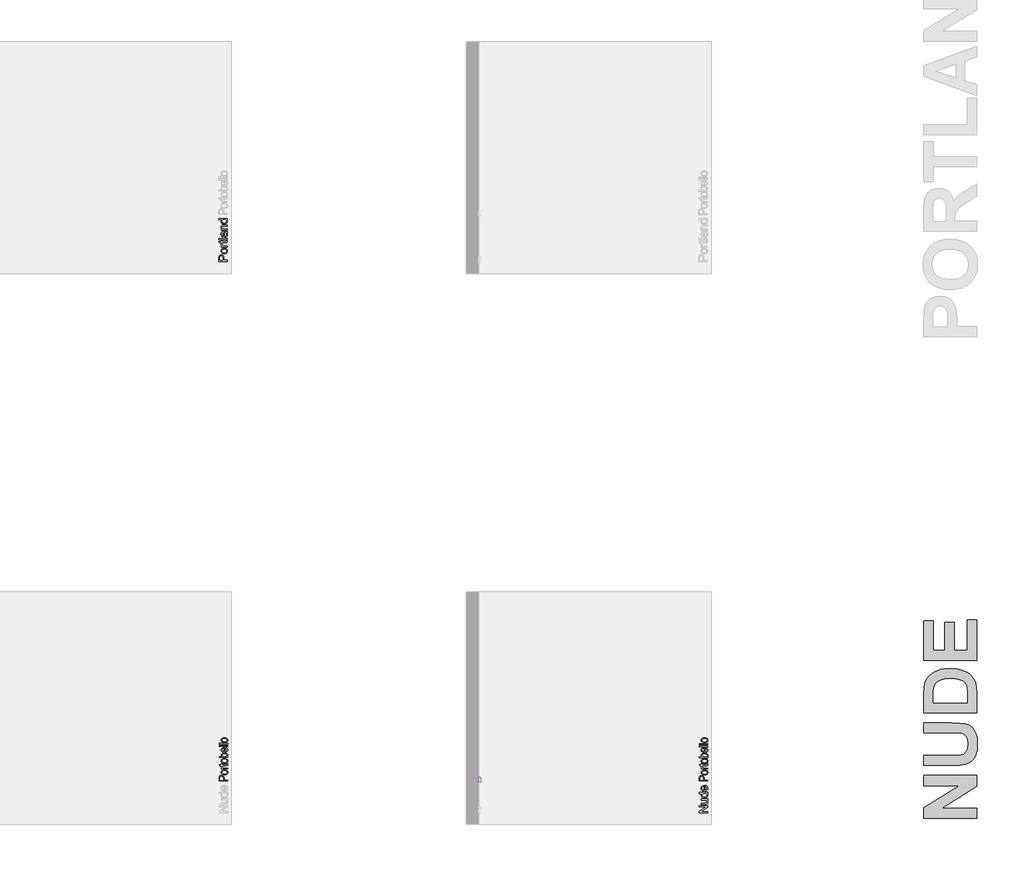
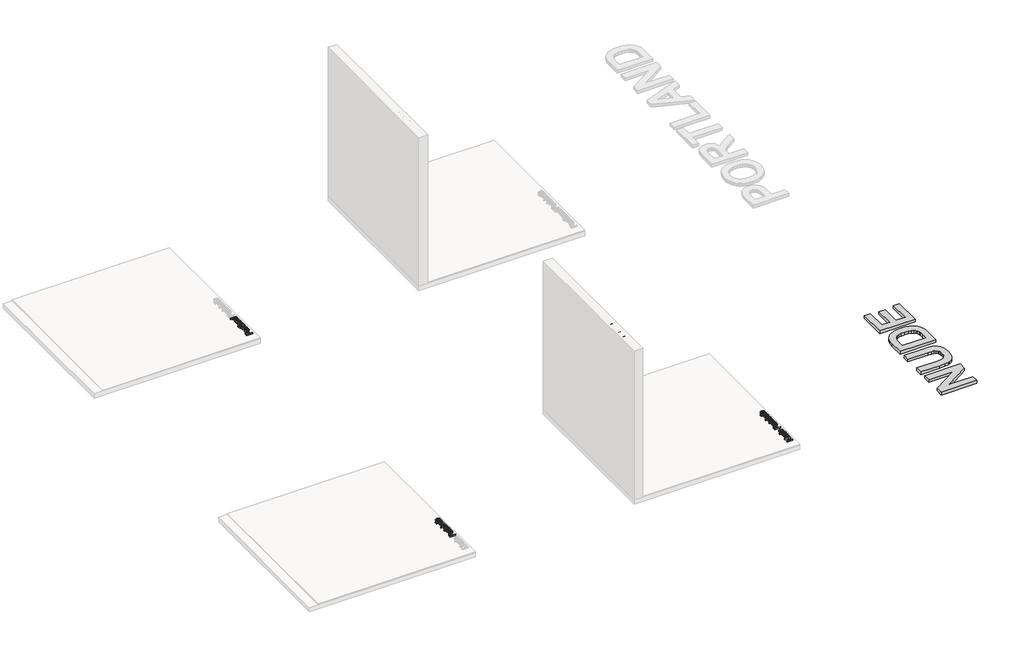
# One storey, part 11 of 14: 6 proxies.
"""IFC4 building model written with IfcOpenShell, lengths in millimetres."""

from ifc_helpers import new_model, si_unit, frame, origin, origin_with_axes, place, context, project, spatial, polyline, outline, extrude, element, save

model = new_model("IFC4")

# Units and contexts
model_context = context("Model", 3, world=origin())
ifc_project = project(units=[si_unit("LENGTHUNIT", "METRE", prefix="MILLI")], contexts=[model_context])

# Site, building, storey
site = spatial("IfcSite", under=ifc_project)
building = spatial("IfcBuilding", under=site)
storey = spatial("IfcBuildingStorey", under=building, Name="PORTOBELLO - SHOWROOM", Elevation=0.0)

# Proxies
placement = place(None, origin())
element("IfcBuildingElementProxy", 1, Name="10mm Arial", ObjectType="10mm Arial", at=placement, inside=storey, context=model_context, shape_type="SweptSolid", body=[
    extrude(outline(polyline([(197929.3756108, 3711.0182352), (197828.9193006, 3711.0182352), (197828.9193006, 3724.4581908), (197908.5044389, 3776.9426887), (197828.9193006, 3776.9426887), (197828.9193006, 3789.4997275), (197929.3756108, 3789.4997275), (197929.3756108, 3776.059772), (197849.765947, 3723.575274), (197929.3756108, 3723.575274), (197929.3756108, 3711.0182352)])), frame((0.0, 0.0, 17.0), z_axis=(0.0, 0.0, 1.0), x_axis=(1.0, 0.0, 0.0)), (0.0, 0.0, 1.0), 20.0),
    extrude(outline(polyline([(197929.3756108, 3856.9938109), (197916.6959447, 3856.9938109), (197927.3829166, 3847.1590989), (197930.9452406, 3834.33228), (197928.443643, 3822.5232679), (197922.1651236, 3814.3808131), (197912.9190228, 3810.6406795), (197901.2449009, 3809.9049155), (197855.603008, 3809.9049155), (197855.603008, 3822.4619543), (197895.3342635, 3822.4619543), (197908.1365569, 3823.2222437), (197915.6536123, 3828.1886507), (197918.3882018, 3837.5451161), (197915.5922987, 3848.0297529), (197907.9771414, 3854.9581972), (197893.9853628, 3856.9938109), (197855.603008, 3856.9938109), (197855.603008, 3869.5508497), (197929.3756108, 3869.5508497), (197929.3756108, 3856.9938109)])), frame((0.0, 0.0, 17.0), z_axis=(0.0, 0.0, 1.0), x_axis=(1.0, 0.0, 0.0)), (0.0, 0.0, 1.0), 20.0),
    extrude(outline(polyline([(197929.3756108, 3932.3360435), (197917.5298105, 3932.3360435), (197927.5913831, 3924.0280418), (197930.9452406, 3912.5439922), (197926.0891983, 3896.9948465), (197912.5388781, 3886.0074376), (197892.5628858, 3882.1078884), (197872.5746307, 3885.7008693), (197858.8158441, 3896.467549), (197854.0333781, 3912.4949412), (197857.4546807, 3924.0709613), (197866.3451622, 3932.3360435), (197828.9193006, 3932.3360435), (197828.9193006, 3944.8930823), (197929.3756108, 3944.8930823), (197929.3756108, 3932.3360435)]), holes=[polyline([(197892.5138348, 3894.6649272), (197903.8721914, 3896.0812729), (197911.9502669, 3900.3303099), (197916.7787181, 3906.5045961), (197918.3882018, 3913.6966891), (197916.8522945, 3920.8857164), (197912.2445725, 3926.9036527), (197904.4791967, 3930.9779458), (197893.470328, 3932.3360435), (197881.4344554, 3930.9534203), (197873.0896655, 3926.8055508), (197868.2152291, 3920.6343304), (197866.5904169, 3913.1816543), (197868.1508497, 3905.9159849), (197872.8321481, 3899.9624279), (197880.8734354, 3895.9893024), (197892.5138348, 3894.6649272)])]), frame((0.0, 0.0, 17.0), z_axis=(0.0, 0.0, 1.0), x_axis=(1.0, 0.0, 0.0)), (0.0, 0.0, 1.0), 20.0),
    extrude(outline(polyline([(197907.4007929, 4015.3792726), (197908.9704228, 4027.6910567), (197918.2471804, 4023.2550129), (197925.181756, 4016.1763502), (197929.5043695, 4006.614484), (197930.9452406, 3994.7288299), (197928.4589714, 3979.995156), (197921.000164, 3968.6582592), (197909.0531962, 3961.429378), (197893.102446, 3959.0197509), (197876.6152013, 3961.4539034), (197864.2850231, 3968.756361), (197856.5962894, 3979.9399737), (197854.0333781, 3994.0175914), (197856.590158, 4007.6568163), (197864.2604976, 4018.5553204), (197876.5661503, 4025.7014282), (197893.0288696, 4028.0834641), (197896.413384, 4028.0098877), (197896.413384, 3971.5767897), (197905.812769, 3973.7503591), (197912.7228191, 3978.7995395), (197916.9718561, 3986.0866687), (197918.3882018, 3994.9740846), (197915.7639769, 4007.2858687), (197907.4007929, 4015.3792726)]), holes=[polyline([(197883.8563452, 3971.5767897), (197883.8563452, 4015.5264253), (197872.4765288, 4010.4987047), (197868.0619449, 4003.177853), (197866.5904169, 3993.9685404), (197871.2870437, 3978.5052339), (197876.7776825, 3973.6399945), (197883.8563452, 3971.5767897)])]), frame((0.0, 0.0, 17.0), z_axis=(0.0, 0.0, 1.0), x_axis=(1.0, 0.0, 0.0)), (0.0, 0.0, 1.0), 20.0),
])
element("IfcBuildingElementProxy", 2, Name="10mm Arial", ObjectType="10mm Arial", at=placement, inside=storey, context=model_context, shape_type="SweptSolid", body=[
    extrude(outline(polyline([(192349.2928516, 10118.1415779), (192248.8365415, 10118.1415779), (192248.8365415, 10155.3712358), (192249.7930347, 10170.3808212), (192254.4896615, 10182.5822407), (192264.2017461, 10190.4917036), (192277.8992191, 10193.4838105), (192289.738888, 10191.4635252), (192299.6042568, 10185.4026693), (192306.2629209, 10174.0688382), (192308.4824756, 10156.2296271), (192308.4824756, 10130.6986166), (192349.2928516, 10130.6986166), (192349.2928516, 10118.1415779)]), holes=[polyline([(192295.9254369, 10130.6986166), (192295.9254369, 10156.9653911), (192291.3146492, 10175.4575927), (192285.7657624, 10179.559477), (192278.3406775, 10180.9267717), (192267.9418798, 10177.7016729), (192262.2519716, 10169.2281243), (192261.3935802, 10156.6710855), (192261.3935802, 10130.6986166), (192295.9254369, 10130.6986166)])]), frame((0.0, 0.0, 17.0), z_axis=(0.0, 0.0, 1.0), x_axis=(1.0, 0.0, 0.0)), (0.0, 0.0, 1.0), 20.0),
    extrude(outline(polyline([(192312.4065502, 10206.0408493), (192294.6194558, 10208.7570447), (192282.1175993, 10216.9056308), (192275.9923641, 10226.9733348), (192273.950619, 10239.0276015), (192276.4368882, 10252.2192367), (192283.8956956, 10262.7559902), (192295.7384302, 10269.6629746), (192311.3764807, 10271.9653028), (192333.7191805, 10267.8940754), (192346.3620584, 10256.0360124), (192350.8624815, 10239.0276015), (192348.3854094, 10225.6765507), (192340.9541931, 10215.15206), (192328.8631382, 10208.3186519), (192312.4065502, 10206.0408493)]), holes=[polyline([(192312.3820248, 10218.597888), (192323.7465127, 10220.0510219), (192331.8429823, 10224.4104235), (192336.6898276, 10230.9709858), (192338.3054427, 10239.0276015), (192336.6806306, 10247.047429), (192331.8061941, 10253.5957285), (192323.6024256, 10257.9551301), (192311.9896173, 10259.408264), (192300.9562231, 10257.9459331), (192292.9701182, 10253.5589403), (192288.1232729, 10247.0014437), (192286.5076578, 10239.0276015), (192288.1171415, 10230.9709858), (192292.9455927, 10224.4104235), (192301.0236682, 10220.0510219), (192312.3820248, 10218.597888)])]), frame((0.0, 0.0, 17.0), z_axis=(0.0, 0.0, 1.0), x_axis=(1.0, 0.0, 0.0)), (0.0, 0.0, 1.0), 20.0),
    extrude(outline(polyline([(192349.2928516, 10286.0919714), (192275.5202489, 10286.0919714), (192275.5202489, 10297.0793803), (192286.4340814, 10297.0793803), (192276.3786402, 10304.8784786), (192273.950619, 10312.7266279), (192277.8256427, 10325.3327176), (192289.0828317, 10321.1388628), (192286.5076578, 10312.3096949), (192288.9847299, 10305.2095724), (192295.8518605, 10300.6846239), (192310.5180893, 10298.6490102), (192349.2928516, 10298.6490102), (192349.2928516, 10286.0919714)])), frame((0.0, 0.0, 17.0), z_axis=(0.0, 0.0, 1.0), x_axis=(1.0, 0.0, 0.0)), (0.0, 0.0, 1.0), 20.0),
    extrude(outline(polyline([(192338.8204775, 10359.8645742), (192349.6607336, 10361.434204), (192350.8624815, 10352.0409504), (192348.7778168, 10341.5195253), (192343.3086378, 10336.2710755), (192329.0593419, 10334.7504966), (192288.0772876, 10334.7504966), (192288.0772876, 10325.3327176), (192277.8256427, 10325.3327176), (192275.5202489, 10325.3327176), (192275.5202489, 10334.7504966), (192257.592133, 10334.7504966), (192250.2099676, 10347.3075354), (192275.5202489, 10347.3075354), (192275.5202489, 10359.8645742), (192288.0772876, 10359.8645742), (192288.0772876, 10347.3075354), (192328.6914599, 10347.3075354), (192335.166183, 10347.969723), (192337.4593141, 10350.1157013), (192338.3054427, 10354.3953952), (192338.8204775, 10359.8645742)])), frame((0.0, 0.0, 17.0), z_axis=(0.0, 0.0, 1.0), x_axis=(1.0, 0.0, 0.0)), (0.0, 0.0, 1.0), 20.0),
    extrude(outline(polyline([(192349.2928516, 10372.4216129), (192248.8365415, 10372.4216129), (192248.8365415, 10384.9786517), (192349.2928516, 10384.9786517), (192349.2928516, 10372.4216129)])), frame((0.0, 0.0, 17.0), z_axis=(0.0, 0.0, 1.0), x_axis=(1.0, 0.0, 0.0)), (0.0, 0.0, 1.0), 20.0),
    extrude(outline(polyline([(192339.8750725, 10450.9031052), (192348.3854094, 10438.7262112), (192350.8624815, 10425.2739929), (192349.3725594, 10414.780159), (192344.9027931, 10407.0393087), (192338.1153703, 10402.2660398), (192329.6724785, 10400.6749502), (192319.7396647, 10403.0784459), (192312.5291776, 10409.3937535), (192308.4088992, 10418.1861331), (192306.5204383, 10429.0509147), (192302.2039562, 10450.8295288), (192299.4080531, 10450.9031052), (192290.1374268, 10447.4450145), (192286.5076578, 10433.5636005), (192288.9234162, 10420.859409), (192297.4950667, 10414.8016188), (192295.9254369, 10402.24458), (192283.6627037, 10407.6769708), (192276.476742, 10418.6153288), (192273.950619, 10435.1822813), (192276.1824364, 10450.4003332), (192281.7865055, 10458.9965091), (192290.3091051, 10462.8470074), (192301.296514, 10463.460144), (192316.919236, 10463.460144), (192338.7346384, 10464.0978061), (192349.2928516, 10466.5994037), (192349.2928516, 10454.0423649), (192339.8750725, 10450.9031052)]), holes=[polyline([(192314.760995, 10450.9031052), (192318.6114932, 10430.64507), (192320.6471069, 10419.8416021), (192323.9580449, 10414.9487716), (192328.7895618, 10413.2319889), (192335.5831159, 10416.9721226), (192338.3054427, 10427.9472687), (192335.3010731, 10440.6514603), (192328.0292723, 10448.8429661), (192318.3171876, 10450.8295288), (192314.760995, 10450.9031052)])]), frame((0.0, 0.0, 17.0), z_axis=(0.0, 0.0, 1.0), x_axis=(1.0, 0.0, 0.0)), (0.0, 0.0, 1.0), 20.0),
    extrude(outline(polyline([(192349.2928516, 10480.7260723), (192275.5202489, 10480.7260723), (192275.5202489, 10493.2831111), (192285.8209447, 10493.2831111), (192276.9182004, 10502.8848312), (192273.950619, 10515.9936929), (192276.341852, 10527.8517559), (192282.6203714, 10535.9451598), (192291.8542094, 10539.7098189), (192303.9943153, 10540.3720065), (192349.2928516, 10540.3720065), (192349.2928516, 10527.8149677), (192305.6865725, 10527.8149677), (192294.5765362, 10526.3679652), (192288.702687, 10521.2544055), (192286.5076578, 10512.633704), (192291.4372765, 10499.0098075), (192298.5803186, 10494.7147852), (192310.1502073, 10493.2831111), (192349.2928516, 10493.2831111), (192349.2928516, 10480.7260723)])), frame((0.0, 0.0, 17.0), z_axis=(0.0, 0.0, 1.0), x_axis=(1.0, 0.0, 0.0)), (0.0, 0.0, 1.0), 20.0),
    extrude(outline(polyline([(192349.2928516, 10603.1572003), (192337.4470514, 10603.1572003), (192347.5086239, 10594.8491986), (192350.8624815, 10583.365149), (192346.0064391, 10567.8160033), (192332.456119, 10556.8285944), (192312.4801266, 10552.9290452), (192292.4918716, 10556.5220261), (192278.7330849, 10567.2887058), (192273.950619, 10583.316098), (192277.3719216, 10594.8921182), (192286.2624031, 10603.1572003), (192248.8365415, 10603.1572003), (192248.8365415, 10615.7142391), (192349.2928516, 10615.7142391), (192349.2928516, 10603.1572003)]), holes=[polyline([(192312.4310757, 10565.486084), (192323.7894323, 10566.9024297), (192331.8675078, 10571.1514667), (192336.695959, 10577.3257529), (192338.3054427, 10584.5178459), (192336.7695354, 10591.7068732), (192332.1618134, 10597.7248095), (192324.3964376, 10601.7991026), (192313.3875689, 10603.1572003), (192301.3516963, 10601.7745772), (192293.0069064, 10597.6267077), (192288.1324699, 10591.4554872), (192286.5076578, 10584.0028111), (192288.0680906, 10576.7371417), (192292.749389, 10570.7835847), (192300.7906762, 10566.8104592), (192312.4310757, 10565.486084)])]), frame((0.0, 0.0, 17.0), z_axis=(0.0, 0.0, 1.0), x_axis=(1.0, 0.0, 0.0)), (0.0, 0.0, 1.0), 20.0),
])
element("IfcBuildingElementProxy", 3, Name="10mm Arial Narrow", ObjectType="10mm Arial Narrow", at=placement, inside=storey, context=model_context, shape_type="SweptSolid", body=[
    extrude(outline(polyline([(197929.3756108, 4078.3321348), (197828.657007, 4078.3321348), (197828.657007, 4109.6290195), (197830.5353277, 4125.924721), (197840.0157709, 4137.3977071), (197857.0348797, 4141.6873856), (197869.1107053, 4139.9010772), (197878.737099, 4134.542152), (197885.0383574, 4124.7983632), (197887.1387769, 4109.8574639), (197887.1387769, 4088.0790965), (197929.3756108, 4088.0790965), (197929.3756108, 4078.3321348)]), holes=[polyline([(197875.7673217, 4088.0790965), (197875.7673217, 4111.0504514), (197871.2365075, 4126.9146468), (197857.5679167, 4131.9404239), (197847.4021403, 4129.4656094), (197841.6021904, 4123.4879806), (197840.0284623, 4110.822007), (197840.0284623, 4088.0790965), (197875.7673217, 4088.0790965)])]), frame((0.0, 0.0, 17.0), z_axis=(0.0, 0.0, 1.0), x_axis=(1.0, 0.0, 0.0)), (0.0, 0.0, 1.0), 20.0),
    extrude(outline(polyline([(197892.8245046, 4149.8098536), (197876.233729, 4151.7643225), (197864.2816442, 4157.6277291), (197857.0570896, 4166.4862958), (197854.6489047, 4177.426245), (197857.0570896, 4188.2392806), (197864.2816442, 4197.12323), (197876.0433587, 4203.0627847), (197892.0630232, 4205.0426363), (197909.2249098, 4203.097686), (197921.3673649, 4197.2628349), (197928.5919195, 4188.4137867), (197931.0001044, 4177.426245), (197928.5855738, 4166.5656168), (197921.3419822, 4157.6911859), (197909.3835517, 4151.7801867), (197892.8245046, 4149.8098536)]), holes=[polyline([(197892.7991218, 4159.5568153), (197905.3508732, 4160.8608521), (197914.2221313, 4164.7729627), (197919.4953899, 4170.6141595), (197921.2531427, 4177.7054548), (197919.4795257, 4184.425528), (197914.1586745, 4190.1176013), (197905.2715523, 4194.0011563), (197892.7991218, 4195.2956747), (197880.2854445, 4193.9916378), (197871.4268778, 4190.0795272), (197866.1536192, 4184.2383305), (197864.3958664, 4177.1470351), (197866.1631378, 4170.3793694), (197871.4649519, 4164.6968146), (197880.3330371, 4160.8418151), (197892.7991218, 4159.5568153)])]), frame((0.0, 0.0, 17.0), z_axis=(0.0, 0.0, 1.0), x_axis=(1.0, 0.0, 0.0)), (0.0, 0.0, 1.0), 20.0),
    extrude(outline(polyline([(197921.2531427, 4276.5203551), (197931.0001044, 4278.1448487), (197931.0001044, 4270.7838621), (197928.8806479, 4262.5090977), (197923.080698, 4258.1940366), (197908.4348728, 4257.0264318), (197866.02036, 4257.0264318), (197866.02036, 4248.9039638), (197862.7713728, 4248.9039638), (197867.6448536, 4247.2794702), (197866.02036, 4239.7154218), (197868.3428782, 4233.6362621), (197874.8281613, 4229.7653984), (197890.2354679, 4227.7855469), (197929.3756108, 4227.7855469), (197929.3756108, 4218.0385852), (197856.2733984, 4218.0385852), (197856.2733984, 4227.7855469), (197865.9695946, 4227.7855469), (197856.8825835, 4234.0296942), (197854.6489047, 4240.4261378), (197856.2733984, 4248.9039638), (197856.2733984, 4257.0264318), (197840.0284623, 4257.0264318), (197831.9059942, 4266.7733935), (197856.2733984, 4266.7733935), (197856.2733984, 4276.5203551), (197866.02036, 4276.5203551), (197866.02036, 4266.7733935), (197910.6685515, 4266.7733935), (197918.664106, 4267.6364057), (197921.2531427, 4272.2560594), (197921.2531427, 4276.5203551)])), frame((0.0, 0.0, 17.0), z_axis=(0.0, 0.0, 1.0), x_axis=(1.0, 0.0, 0.0)), (0.0, 0.0, 1.0), 20.0),
    extrude(outline(polyline([(197892.8245046, 4283.0183296), (197876.233729, 4284.9727984), (197864.2816442, 4290.8362051), (197857.0570896, 4299.6947718), (197854.6489047, 4310.6347209), (197857.0570896, 4321.4477565), (197864.2816442, 4330.3317059), (197876.0433587, 4336.2712607), (197892.0630232, 4338.2511123), (197909.2249098, 4336.3061619), (197921.3673649, 4330.4713108), (197928.5919195, 4321.6222626), (197931.0001044, 4310.6347209), (197928.5855738, 4299.7740927), (197921.3419822, 4290.8996618), (197909.3835517, 4284.9886626), (197892.8245046, 4283.0183296)]), holes=[polyline([(197892.7991218, 4292.7652912), (197905.3508732, 4294.0693281), (197914.2221313, 4297.9814387), (197919.4953899, 4303.8226354), (197921.2531427, 4310.9139307), (197919.4795257, 4317.6340039), (197914.1586745, 4323.3260772), (197905.2715523, 4327.2096323), (197892.7991218, 4328.5041506), (197880.2854445, 4327.2001137), (197871.4268778, 4323.2880032), (197866.1536192, 4317.4468064), (197864.3958664, 4310.3555111), (197866.1631378, 4303.5878453), (197871.4649519, 4297.9052905), (197880.3330371, 4294.050291), (197892.7991218, 4292.7652912)])]), frame((0.0, 0.0, 17.0), z_axis=(0.0, 0.0, 1.0), x_axis=(1.0, 0.0, 0.0)), (0.0, 0.0, 1.0), 20.0),
    extrude(outline(polyline([(197929.3756108, 4360.9940228), (197929.3756108, 4351.2470611), (197828.657007, 4351.2470611), (197828.657007, 4360.9940228), (197864.0658911, 4360.9940228), (197856.9841143, 4368.3930835), (197854.6489047, 4377.5943169), (197858.8497437, 4390.4760435), (197871.5791741, 4399.753425), (197892.2660849, 4403.2308566), (197908.7204283, 4401.2985976), (197920.9231674, 4395.5018206), (197928.4808701, 4387.1286983), (197931.0001044, 4377.4674033), (197928.385685, 4368.126565), (197920.6185749, 4360.9940228), (197929.3756108, 4360.9940228)]), holes=[polyline([(197892.2660849, 4360.9940228), (197909.5136381, 4363.0754052), (197918.2452913, 4368.9641946), (197921.2531427, 4377.4166379), (197919.4636615, 4383.3593655), (197914.0952177, 4388.5977228), (197892.6722083, 4393.483895), (197871.2365075, 4388.7754018), (197866.1060267, 4383.5306988), (197864.3958664, 4377.2135762), (197866.1853476, 4371.2359473), (197871.5537914, 4365.9436518), (197892.2660849, 4360.9940228)])]), frame((0.0, 0.0, 17.0), z_axis=(0.0, 0.0, 1.0), x_axis=(1.0, 0.0, 0.0)), (0.0, 0.0, 1.0), 20.0),
    extrude(outline(polyline([(197906.6327002, 4455.2146521), (197908.2571938, 4464.9616138), (197918.1437604, 4461.2620834), (197925.2636113, 4455.4430965), (197929.5659811, 4447.7394432), (197931.0001044, 4438.3859136), (197928.5855738, 4426.7923596), (197921.3419822, 4417.6482374), (197909.535848, 4411.7086826), (197893.4336897, 4409.7288311), (197876.766766, 4411.7182012), (197864.5862367, 4417.6863115), (197857.1332377, 4426.7003473), (197854.6489047, 4437.8274939), (197857.0475711, 4448.5104431), (197864.2435701, 4457.2579605), (197875.9830747, 4463.0928115), (197892.0122577, 4465.0377619), (197895.261245, 4464.9616138), (197895.261245, 4419.4757927), (197914.7044028, 4425.4788042), (197919.6159577, 4431.4088405), (197921.2531427, 4438.5128272), (197917.5980321, 4448.691295), (197906.6327002, 4455.2146521)]), holes=[polyline([(197885.5142833, 4420.1357432), (197885.5142833, 4455.2146521), (197871.2491988, 4450.9503564), (197866.1091995, 4445.1250238), (197864.3958664, 4437.9036421), (197870.1069767, 4425.6945573), (197885.5142833, 4420.1357432)])]), frame((0.0, 0.0, 17.0), z_axis=(0.0, 0.0, 1.0), x_axis=(1.0, 0.0, 0.0)), (0.0, 0.0, 1.0), 20.0),
    extrude(outline(polyline([(197929.3756108, 4477.9575626), (197828.657007, 4477.9575626), (197828.657007, 4487.7045243), (197929.3756108, 4487.7045243), (197929.3756108, 4477.9575626)])), frame((0.0, 0.0, 17.0), z_axis=(0.0, 0.0, 1.0), x_axis=(1.0, 0.0, 0.0)), (0.0, 0.0, 1.0), 20.0),
    extrude(outline(polyline([(197929.3756108, 4503.9494604), (197828.657007, 4503.9494604), (197828.657007, 4513.696422), (197929.3756108, 4513.696422), (197929.3756108, 4503.9494604)])), frame((0.0, 0.0, 17.0), z_axis=(0.0, 0.0, 1.0), x_axis=(1.0, 0.0, 0.0)), (0.0, 0.0, 1.0), 20.0),
    extrude(outline(polyline([(197892.8245046, 4525.0678773), (197876.233729, 4527.0223462), (197864.2816442, 4532.8857528), (197857.0570896, 4541.7443195), (197854.6489047, 4552.6842686), (197857.0570896, 4563.4973042), (197864.2816442, 4572.3812536), (197876.0433587, 4578.3208084), (197892.0630232, 4580.30066), (197909.2249098, 4578.3557096), (197921.3673649, 4572.5208586), (197928.5919195, 4563.6718104), (197931.0001044, 4552.6842686), (197928.5855738, 4541.8236405), (197921.3419822, 4532.9492096), (197909.3835517, 4527.0382104), (197892.8245046, 4525.0678773)]), holes=[polyline([(197892.7991218, 4534.8148389), (197905.3508732, 4536.1188758), (197914.2221313, 4540.0309864), (197919.4953899, 4545.8721831), (197921.2531427, 4552.9634785), (197919.4795257, 4559.6835516), (197914.1586745, 4565.375625), (197905.2715523, 4569.25918), (197892.7991218, 4570.5536983), (197880.2854445, 4569.2496615), (197871.4268778, 4565.3375509), (197866.1536192, 4559.4963541), (197864.3958664, 4552.4050588), (197866.1631378, 4545.637393), (197871.4649519, 4539.9548383), (197880.3330371, 4536.0998388), (197892.7991218, 4534.8148389)])]), frame((0.0, 0.0, 17.0), z_axis=(0.0, 0.0, 1.0), x_axis=(1.0, 0.0, 0.0)), (0.0, 0.0, 1.0), 20.0),
])
element("IfcBuildingElementProxy", 4, Name="10mm Arial Narrow", ObjectType="10mm Arial Narrow", at=placement, inside=storey, context=model_context, shape_type="SweptSolid", body=[
    extrude(outline(polyline([(192353.0453749, 4079.5966426), (192252.3267712, 4079.5966426), (192252.3267712, 4110.8935273), (192254.2050919, 4127.1892288), (192263.6855351, 4138.6622149), (192280.7046439, 4142.9518934), (192292.7804694, 4141.165585), (192302.4068632, 4135.8066598), (192308.7081216, 4126.062871), (192310.8085411, 4111.1219717), (192310.8085411, 4089.3436043), (192353.0453749, 4089.3436043), (192353.0453749, 4079.5966426)]), holes=[polyline([(192299.4370858, 4089.3436043), (192299.4370858, 4112.3149592), (192294.9062716, 4128.1791546), (192281.2376809, 4133.2049317), (192271.0719044, 4130.7301172), (192265.2719546, 4124.7524884), (192263.6982264, 4112.0865148), (192263.6982264, 4089.3436043), (192299.4370858, 4089.3436043)])]), frame((0.0, 0.0, 17.0), z_axis=(0.0, 0.0, 1.0), x_axis=(1.0, 0.0, 0.0)), (0.0, 0.0, 1.0), 20.0),
    extrude(outline(polyline([(192316.4942687, 4151.0743614), (192299.9034932, 4153.0288303), (192287.9514083, 4158.8922369), (192280.7268538, 4167.7508036), (192278.3186689, 4178.6907528), (192280.7268538, 4189.5037884), (192287.9514083, 4198.3877378), (192299.7131228, 4204.3272925), (192315.7327873, 4206.3071441), (192332.8946739, 4204.3621938), (192345.0371291, 4198.5273427), (192352.2616837, 4189.6782945), (192354.6698685, 4178.6907528), (192352.255338, 4167.8301246), (192345.0117464, 4158.9556937), (192333.0533159, 4153.0446945), (192316.4942687, 4151.0743614)]), holes=[polyline([(192316.468886, 4160.8213231), (192329.0206374, 4162.1253599), (192337.8918955, 4166.0374705), (192343.165154, 4171.8786673), (192344.9229069, 4178.9699626), (192343.1492898, 4185.6900358), (192337.8284387, 4191.3821091), (192328.9413164, 4195.2656641), (192316.468886, 4196.5601825), (192303.9552087, 4195.2561456), (192295.096642, 4191.344035), (192289.8233834, 4185.5028383), (192288.0656306, 4178.4115429), (192289.8329019, 4171.6438772), (192295.134716, 4165.9613224), (192304.0028013, 4162.1063229), (192316.468886, 4160.8213231)])]), frame((0.0, 0.0, 17.0), z_axis=(0.0, 0.0, 1.0), x_axis=(1.0, 0.0, 0.0)), (0.0, 0.0, 1.0), 20.0),
    extrude(outline(polyline([(192344.9229069, 4277.7848629), (192354.6698685, 4279.4093565), (192354.6698685, 4272.0483699), (192352.550412, 4263.7736055), (192346.7504622, 4259.4585444), (192332.104637, 4258.2909396), (192289.6901242, 4258.2909396), (192289.6901242, 4250.1684716), (192286.4411369, 4250.1684716), (192291.3146178, 4248.543978), (192289.6901242, 4240.9799296), (192292.0126424, 4234.9007699), (192298.4979254, 4231.0299062), (192313.905232, 4229.0500546), (192353.0453749, 4229.0500546), (192353.0453749, 4219.303093), (192279.9431625, 4219.303093), (192279.9431625, 4229.0500546), (192289.6393587, 4229.0500546), (192280.5523476, 4235.294202), (192278.3186689, 4241.6906455), (192279.9431625, 4250.1684716), (192279.9431625, 4258.2909396), (192263.6982264, 4258.2909396), (192255.5757584, 4268.0379013), (192279.9431625, 4268.0379013), (192279.9431625, 4277.7848629), (192289.6901242, 4277.7848629), (192289.6901242, 4268.0379013), (192334.3383157, 4268.0379013), (192342.3338702, 4268.9009135), (192344.9229069, 4273.5205672), (192344.9229069, 4277.7848629)])), frame((0.0, 0.0, 17.0), z_axis=(0.0, 0.0, 1.0), x_axis=(1.0, 0.0, 0.0)), (0.0, 0.0, 1.0), 20.0),
    extrude(outline(polyline([(192316.4942687, 4284.2828374), (192299.9034932, 4286.2373062), (192287.9514083, 4292.1007128), (192280.7268538, 4300.9592796), (192278.3186689, 4311.8992287), (192280.7268538, 4322.7122643), (192287.9514083, 4331.5962137), (192299.7131228, 4337.5357685), (192315.7327873, 4339.5156201), (192332.8946739, 4337.5706697), (192345.0371291, 4331.7358186), (192352.2616837, 4322.8867704), (192354.6698685, 4311.8992287), (192352.255338, 4301.0386005), (192345.0117464, 4292.1641696), (192333.0533159, 4286.2531704), (192316.4942687, 4284.2828374)]), holes=[polyline([(192316.468886, 4294.029799), (192329.0206374, 4295.3338359), (192337.8918955, 4299.2459465), (192343.165154, 4305.0871432), (192344.9229069, 4312.1784385), (192343.1492898, 4318.8985117), (192337.8284387, 4324.590585), (192328.9413164, 4328.4741401), (192316.468886, 4329.7686584), (192303.9552087, 4328.4646215), (192295.096642, 4324.552511), (192289.8233834, 4318.7113142), (192288.0656306, 4311.6200189), (192289.8329019, 4304.8523531), (192295.134716, 4299.1697983), (192304.0028013, 4295.3147988), (192316.468886, 4294.029799)])]), frame((0.0, 0.0, 17.0), z_axis=(0.0, 0.0, 1.0), x_axis=(1.0, 0.0, 0.0)), (0.0, 0.0, 1.0), 20.0),
    extrude(outline(polyline([(192353.0453749, 4362.2585306), (192353.0453749, 4352.5115689), (192252.3267712, 4352.5115689), (192252.3267712, 4362.2585306), (192287.7356553, 4362.2585306), (192280.6538785, 4369.6575913), (192278.3186689, 4378.8588246), (192282.5195078, 4391.7405513), (192295.2489382, 4401.0179328), (192315.935849, 4404.4953644), (192332.3901925, 4402.5631054), (192344.5929316, 4396.7663284), (192352.1506343, 4388.3932061), (192354.6698685, 4378.7319111), (192352.0554491, 4369.3910728), (192344.2883391, 4362.2585306), (192353.0453749, 4362.2585306)]), holes=[polyline([(192315.935849, 4362.2585306), (192333.1834023, 4364.339913), (192341.9150554, 4370.2287023), (192344.9229069, 4378.6811457), (192343.1334256, 4384.6238733), (192337.7649819, 4389.8622306), (192316.3419724, 4394.7484028), (192294.9062716, 4390.0399096), (192289.7757908, 4384.7952066), (192288.0656306, 4378.478084), (192289.8551118, 4372.5004551), (192295.2235555, 4367.2081595), (192315.935849, 4362.2585306)])]), frame((0.0, 0.0, 17.0), z_axis=(0.0, 0.0, 1.0), x_axis=(1.0, 0.0, 0.0)), (0.0, 0.0, 1.0), 20.0),
    extrude(outline(polyline([(192330.3024644, 4456.4791599), (192331.926958, 4466.2261216), (192341.8135246, 4462.5265912), (192348.9333755, 4456.7076043), (192353.2357453, 4449.003951), (192354.6698685, 4439.6504214), (192352.255338, 4428.0568674), (192345.0117464, 4418.9127452), (192333.2056121, 4412.9731904), (192317.1034538, 4410.9933388), (192300.4365301, 4412.982709), (192288.2560009, 4418.9508193), (192280.8030019, 4427.9648551), (192278.3186689, 4439.0920017), (192280.7173352, 4449.7749509), (192287.9133343, 4458.5224683), (192299.6528389, 4464.3573193), (192315.6820219, 4466.3022697), (192318.9310091, 4466.2261216), (192318.9310091, 4420.7403005), (192338.374167, 4426.743312), (192343.2857219, 4432.6733483), (192344.9229069, 4439.777335), (192341.2677962, 4449.9558027), (192330.3024644, 4456.4791599)]), holes=[polyline([(192309.1840475, 4421.400251), (192309.1840475, 4456.4791599), (192294.918963, 4452.2148642), (192289.7789637, 4446.3895316), (192288.0656306, 4439.1681499), (192293.7767409, 4426.9590651), (192309.1840475, 4421.400251)])]), frame((0.0, 0.0, 17.0), z_axis=(0.0, 0.0, 1.0), x_axis=(1.0, 0.0, 0.0)), (0.0, 0.0, 1.0), 20.0),
    extrude(outline(polyline([(192353.0453749, 4479.2220704), (192252.3267712, 4479.2220704), (192252.3267712, 4488.9690321), (192353.0453749, 4488.9690321), (192353.0453749, 4479.2220704)])), frame((0.0, 0.0, 17.0), z_axis=(0.0, 0.0, 1.0), x_axis=(1.0, 0.0, 0.0)), (0.0, 0.0, 1.0), 20.0),
    extrude(outline(polyline([(192353.0453749, 4505.2139682), (192252.3267712, 4505.2139682), (192252.3267712, 4514.9609298), (192353.0453749, 4514.9609298), (192353.0453749, 4505.2139682)])), frame((0.0, 0.0, 17.0), z_axis=(0.0, 0.0, 1.0), x_axis=(1.0, 0.0, 0.0)), (0.0, 0.0, 1.0), 20.0),
    extrude(outline(polyline([(192316.4942687, 4526.3323851), (192299.9034932, 4528.286854), (192287.9514083, 4534.1502606), (192280.7268538, 4543.0088273), (192278.3186689, 4553.9487764), (192280.7268538, 4564.761812), (192287.9514083, 4573.6457614), (192299.7131228, 4579.5853162), (192315.7327873, 4581.5651678), (192332.8946739, 4579.6202174), (192345.0371291, 4573.7853664), (192352.2616837, 4564.9363182), (192354.6698685, 4553.9487764), (192352.255338, 4543.0881483), (192345.0117464, 4534.2137174), (192333.0533159, 4528.3027181), (192316.4942687, 4526.3323851)]), holes=[polyline([(192316.468886, 4536.0793467), (192329.0206374, 4537.3833836), (192337.8918955, 4541.2954942), (192343.165154, 4547.1366909), (192344.9229069, 4554.2279863), (192343.1492898, 4560.9480594), (192337.8284387, 4566.6401328), (192328.9413164, 4570.5236878), (192316.468886, 4571.8182061), (192303.9552087, 4570.5141693), (192295.096642, 4566.6020587), (192289.8233834, 4560.7608619), (192288.0656306, 4553.6695666), (192289.8329019, 4546.9019008), (192295.134716, 4541.219346), (192304.0028013, 4537.3643466), (192316.468886, 4536.0793467)])]), frame((0.0, 0.0, 17.0), z_axis=(0.0, 0.0, 1.0), x_axis=(1.0, 0.0, 0.0)), (0.0, 0.0, 1.0), 20.0),
])
element("IfcBuildingElementProxy", 5, Name="10mm Arial Narrow", ObjectType="10mm Arial Narrow", at=placement, inside=storey, context=model_context, shape_type="SweptSolid", body=[
    extrude(outline(polyline([(4064.1903403, 2558.2261649), (4064.1903403, 2658.9447687), (4095.4872249, 2658.9447687), (4111.7829265, 2657.066448), (4123.2559126, 2647.5860048), (4127.545591, 2630.566896), (4125.7592826, 2618.4910704), (4120.4003574, 2608.8646767), (4110.6565686, 2602.5634182), (4095.7156694, 2600.4629988), (4073.9373019, 2600.4629988), (4073.9373019, 2558.2261649), (4064.1903403, 2558.2261649)]), holes=[polyline([(4073.9373019, 2611.834454), (4096.9086569, 2611.834454), (4112.7728523, 2616.3652682), (4117.7986294, 2630.033859), (4115.3238149, 2640.1996354), (4109.346186, 2645.9995852), (4096.6802124, 2647.5733134), (4073.9373019, 2647.5733134), (4073.9373019, 2611.834454)])]), frame((195271.7113716, 0.0, 0.0), z_axis=(1.0, 0.0, 0.0), x_axis=(0.0, 1.0, 0.0)), (0.0, 0.0, 1.0), 20.0),
    extrude(outline(polyline([(4135.6680591, 2594.7772711), (4137.6225279, 2611.3680467), (4143.4859345, 2623.3201315), (4152.3445013, 2630.5446861), (4163.2844504, 2632.9528709), (4174.097486, 2630.5446861), (4182.9814354, 2623.3201315), (4188.9209902, 2611.558417), (4190.9008418, 2595.5387525), (4188.9558914, 2578.3768659), (4183.1210403, 2566.2344108), (4174.2719921, 2559.0098562), (4163.2844504, 2556.6016713), (4152.4238222, 2559.0162019), (4143.5493913, 2566.2597935), (4137.6383921, 2578.218224), (4135.6680591, 2594.7772711)]), holes=[polyline([(4145.4150207, 2594.8026538), (4146.7190576, 2582.2509024), (4150.6311682, 2573.3796444), (4156.4723649, 2568.1063858), (4163.5636602, 2566.348633), (4170.2837334, 2568.12225), (4175.9758067, 2573.4431012), (4179.8593618, 2582.3302234), (4181.1538801, 2594.8026538), (4179.8498432, 2607.3163312), (4175.9377327, 2616.1748979), (4170.0965359, 2621.4481564), (4163.0052406, 2623.2059093), (4156.2375748, 2621.4386379), (4150.55502, 2616.1368238), (4146.7000205, 2607.2687386), (4145.4150207, 2594.8026538)])]), frame((195271.7113716, 0.0, 0.0), z_axis=(1.0, 0.0, 0.0), x_axis=(0.0, 1.0, 0.0)), (0.0, 0.0, 1.0), 20.0),
    extrude(outline(polyline([(4262.3785606, 2566.348633), (4264.0030542, 2556.6016713), (4256.6420675, 2556.6016713), (4248.3673032, 2558.7211278), (4244.052242, 2564.5210777), (4242.8846372, 2579.1669029), (4242.8846372, 2621.5814157), (4234.7621692, 2621.5814157), (4234.7621692, 2624.8304029), (4233.1376756, 2619.9569221), (4225.5736272, 2621.5814157), (4219.4944675, 2619.2588975), (4215.6236039, 2612.7736144), (4213.6437523, 2597.3663078), (4213.6437523, 2558.2261649), (4203.8967906, 2558.2261649), (4203.8967906, 2631.3283773), (4213.6437523, 2631.3283773), (4213.6437523, 2621.6321811), (4219.8878996, 2630.7191922), (4226.2843432, 2632.9528709), (4234.7621692, 2631.3283773), (4242.8846372, 2631.3283773), (4242.8846372, 2647.5733134), (4252.6315989, 2655.6957815), (4252.6315989, 2631.3283773), (4262.3785606, 2631.3283773), (4262.3785606, 2621.5814157), (4252.6315989, 2621.5814157), (4252.6315989, 2576.9332242), (4253.4946111, 2568.9376697), (4258.1142648, 2566.348633), (4262.3785606, 2566.348633)])), frame((195271.7113716, 0.0, 0.0), z_axis=(1.0, 0.0, 0.0), x_axis=(0.0, 1.0, 0.0)), (0.0, 0.0, 1.0), 20.0),
    extrude(outline(polyline([(4268.876535, 2594.7772711), (4270.8310039, 2611.3680467), (4276.6944105, 2623.3201315), (4285.5529772, 2630.5446861), (4296.4929263, 2632.9528709), (4307.3059619, 2630.5446861), (4316.1899113, 2623.3201315), (4322.1294661, 2611.558417), (4324.1093177, 2595.5387525), (4322.1643673, 2578.3768659), (4316.3295163, 2566.2344108), (4307.4804681, 2559.0098562), (4296.4929263, 2556.6016713), (4285.6322982, 2559.0162019), (4276.7578673, 2566.2597935), (4270.8468681, 2578.218224), (4268.876535, 2594.7772711)]), holes=[polyline([(4278.6234966, 2594.8026538), (4279.9275335, 2582.2509024), (4283.8396441, 2573.3796444), (4289.6808408, 2568.1063858), (4296.7721362, 2566.348633), (4303.4922093, 2568.12225), (4309.1842827, 2573.4431012), (4313.0678377, 2582.3302234), (4314.362356, 2594.8026538), (4313.0583192, 2607.3163312), (4309.1462086, 2616.1748979), (4303.3050118, 2621.4481564), (4296.2137165, 2623.2059093), (4289.4460507, 2621.4386379), (4283.7634959, 2616.1368238), (4279.9084965, 2607.2687386), (4278.6234966, 2594.8026538)])]), frame((195271.7113716, 0.0, 0.0), z_axis=(1.0, 0.0, 0.0), x_axis=(0.0, 1.0, 0.0)), (0.0, 0.0, 1.0), 20.0),
    extrude(outline(polyline([(4346.8522282, 2558.2261649), (4337.1052666, 2558.2261649), (4337.1052666, 2658.9447687), (4346.8522282, 2658.9447687), (4346.8522282, 2623.5358846), (4354.2512889, 2630.6176614), (4363.4525223, 2632.9528709), (4376.3342489, 2628.752032), (4385.6116304, 2616.0226016), (4389.089062, 2595.3356908), (4387.156803, 2578.8813473), (4381.360026, 2566.6786082), (4372.9869037, 2559.1209056), (4363.3256087, 2556.6016713), (4353.9847705, 2559.2160907), (4346.8522282, 2566.9832008), (4346.8522282, 2558.2261649)]), holes=[polyline([(4346.8522282, 2595.3356908), (4348.9336107, 2578.0881376), (4354.8224, 2569.3564844), (4363.2748433, 2566.348633), (4369.2175709, 2568.1381142), (4374.4559282, 2573.5065579), (4379.3421004, 2594.9295674), (4374.6336072, 2616.3652682), (4369.3889042, 2621.495749), (4363.0717816, 2623.2059093), (4357.0941528, 2621.4164281), (4351.8018572, 2616.0479843), (4346.8522282, 2595.3356908)])]), frame((195271.7113716, 0.0, 0.0), z_axis=(1.0, 0.0, 0.0), x_axis=(0.0, 1.0, 0.0)), (0.0, 0.0, 1.0), 20.0),
    extrude(outline(polyline([(4441.0728575, 2580.9690755), (4450.8198192, 2579.3445819), (4447.1202888, 2569.4580153), (4441.3013019, 2562.3381644), (4433.5976487, 2558.0357946), (4424.2441191, 2556.6016713), (4412.6505651, 2559.0162019), (4403.5064428, 2566.2597935), (4397.5668881, 2578.0659277), (4395.5870365, 2594.168086), (4397.5764066, 2610.8350097), (4403.5445169, 2623.0155389), (4412.5585527, 2630.4685379), (4423.6856994, 2632.9528709), (4434.3686486, 2630.5542046), (4443.1161659, 2623.3582056), (4448.951017, 2611.618701), (4450.8959673, 2595.5895179), (4450.8198192, 2592.3405307), (4405.3339981, 2592.3405307), (4411.3370097, 2572.8973728), (4417.2670459, 2567.9858179), (4424.3710326, 2566.348633), (4434.5495004, 2570.0037436), (4441.0728575, 2580.9690755)]), holes=[polyline([(4405.9939487, 2602.0874924), (4441.0728575, 2602.0874924), (4436.8085618, 2616.3525769), (4430.9832293, 2621.4925762), (4423.7618475, 2623.2059093), (4411.5527627, 2617.4947989), (4405.9939487, 2602.0874924)])]), frame((195271.7113716, 0.0, 0.0), z_axis=(1.0, 0.0, 0.0), x_axis=(0.0, 1.0, 0.0)), (0.0, 0.0, 1.0), 20.0),
    extrude(outline(polyline([(195291.7113716, 4473.5627297), (195291.7113716, 4463.8157681), (195271.7113716, 4463.8157681), (195271.7113716, 4473.5627297), (195291.7113716, 4473.5627297)])), frame((0.0, 0.0, 2558.2261649), z_axis=(0.0, 0.0, 1.0), x_axis=(1.0, 0.0, 0.0)), (0.0, 0.0, 1.0), 100.7186038),
    extrude(outline(polyline([(195291.7113716, 4499.5546275), (195291.7113716, 4489.8076658), (195271.7113716, 4489.8076658), (195271.7113716, 4499.5546275), (195291.7113716, 4499.5546275)])), frame((0.0, 0.0, 2558.2261649), z_axis=(0.0, 0.0, 1.0), x_axis=(1.0, 0.0, 0.0)), (0.0, 0.0, 1.0), 100.7186038),
    extrude(outline(polyline([(4510.9260827, 2594.7772711), (4512.8805516, 2611.3680467), (4518.7439582, 2623.3201315), (4527.6025249, 2630.5446861), (4538.5424741, 2632.9528709), (4549.3555097, 2630.5446861), (4558.2394591, 2623.3201315), (4564.1790138, 2611.558417), (4566.1588654, 2595.5387525), (4564.2139151, 2578.3768659), (4558.379064, 2566.2344108), (4549.5300158, 2559.0098562), (4538.5424741, 2556.6016713), (4527.6818459, 2559.0162019), (4518.807415, 2566.2597935), (4512.8964158, 2578.218224), (4510.9260827, 2594.7772711)]), holes=[polyline([(4520.6730444, 2594.8026538), (4521.9770812, 2582.2509024), (4525.8891918, 2573.3796444), (4531.7303886, 2568.1063858), (4538.8216839, 2566.348633), (4545.5417571, 2568.12225), (4551.2338304, 2573.4431012), (4555.1173854, 2582.3302234), (4556.4119038, 2594.8026538), (4555.1078669, 2607.3163312), (4551.1957563, 2616.1748979), (4545.3545596, 2621.4481564), (4538.2632642, 2623.2059093), (4531.4955985, 2621.4386379), (4525.8130437, 2616.1368238), (4521.9580442, 2607.2687386), (4520.6730444, 2594.8026538)])]), frame((195271.7113716, 0.0, 0.0), z_axis=(1.0, 0.0, 0.0), x_axis=(0.0, 1.0, 0.0)), (0.0, 0.0, 1.0), 20.0),
])
element("IfcBuildingElementProxy", 6, Name="600mm Arial", ObjectType="600mm Arial", at=placement, inside=storey, context=model_context, shape_type="SweptSolid", body=[
    extrude(outline(polyline([(201053.0510474, 3646.6476682), (200440.8954075, 3646.6476682), (200440.8954075, 3768.8662421), (200852.9465997, 4025.6011596), (200440.8954075, 4025.6011596), (200440.8954075, 4142.2022339), (201053.0510474, 4142.2022339), (201053.0510474, 4016.188052), (200647.0728279, 3763.2487425), (201053.0510474, 3763.2487425), (201053.0510474, 3646.6476682)])), origin_with_axes(), (0.0, 0.0, 1.0), 50.0),
    extrude(outline(polyline([(200440.8954075, 4258.8033082), (200440.8954075, 4375.4043824), (200771.1132936, 4375.4043824), (200835.9422763, 4376.656933), (200873.1392336, 4380.4145848), (200890.897934, 4386.2313539), (200906.8252536, 4395.0276752), (200920.9211924, 4406.8035487), (200933.1857504, 4421.5589743), (200943.1160095, 4439.2939522), (200950.2090517, 4460.0084822), (200955.8834855, 4510.3761989), (200950.5316784, 4560.6869814), (200943.8419195, 4580.5332662), (200934.4762571, 4596.8401466), (200910.6208615, 4620.1262009), (200881.8691317, 4631.8356513), (200840.3641595, 4636.2765125), (200778.2490364, 4637.7567996), (200440.8954075, 4637.7567996), (200440.8954075, 4754.3578739), (200762.0038347, 4754.3578739), (200856.021042, 4751.8148166), (200917.623758, 4744.1856447), (200959.5082911, 4729.7243787), (200994.3709495, 4706.6850388), (201022.515382, 4674.7449984), (201044.2452371, 4633.5816309), (201058.137162, 4580.8037032), (201062.7678036, 4514.0199825), (201057.7196451, 4435.7925039), (201051.409447, 4404.7349424), (201042.5751697, 4379.048166), (201019.3460494, 4337.8658204), (200990.0439565, 4306.3243189), (200956.9082997, 4284.1579688), (200922.1784875, 4271.1010777), (200857.1217683, 4261.8777505), (200767.0140371, 4258.8033082), (200440.8954075, 4258.8033082)])), origin_with_axes(), (0.0, 0.0, 1.0), 50.0),
    extrude(outline(polyline([(200440.8954075, 4870.9589481), (200440.8954075, 5097.6326511), (200443.8180255, 5165.1944715), (200452.5858798, 5214.537374), (200462.089133, 5240.5942222), (200474.6573396, 5264.7153103), (200490.2904996, 5286.9006384), (200508.988613, 5307.1502065), (200530.3578854, 5325.2789786), (200554.0045225, 5341.101919), (200608.129891, 5365.8303044), (200639.182708, 5374.6313702), (200673.6610611, 5380.9178458), (200752.8943758, 5385.9470262), (200823.1890338, 5381.2404724), (200883.1596384, 5367.1208111), (200914.9668325, 5354.3485905), (200943.585716, 5339.1092249), (200969.0162888, 5321.4027141), (200991.258551, 5301.2290582), (201019.1183129, 5263.3488915), (201040.1459806, 5214.0819011), (201049.8247807, 5166.1433735), (201053.0510474, 5104.312921), (201053.0510474, 4870.9589481), (200440.8954075, 4870.9589481)]), holes=[polyline([(200547.7797256, 4987.5600224), (200946.1667293, 4987.5600224), (200946.1667293, 5086.8531247), (200944.7243984, 5134.8296084), (200940.3974054, 5167.3200119), (200930.5098468, 5196.9067754), (200915.4223055, 5220.9899074), (200892.0603389, 5240.3664857), (200857.3495048, 5255.8335878), (200809.6007576, 5265.9678609), (200747.1250518, 5269.3459519), (200685.5223358, 5265.9678609), (200640.0889094, 5255.8335878), (200606.8393843, 5239.6453202), (200581.7883722, 5218.1052455), (200564.2526638, 5190.6060663), (200553.5490495, 5156.5404855), (200549.2220566, 5115.2822278), (200547.7797256, 5047.3788027), (200547.7797256, 4987.5600224)])]), origin_with_axes(), (0.0, 0.0, 1.0), 50.0),
    extrude(outline(polyline([(201053.0510474, 5483.1145881), (200440.8954075, 5483.1145881), (200440.8954075, 5939.802129), (200547.7797256, 5939.802129), (200547.7797256, 5599.7156624), (200683.8143122, 5599.7156624), (200683.8143122, 5920.3686167), (200790.6986303, 5920.3686167), (200790.6986303, 5599.7156624), (200946.1667293, 5599.7156624), (200946.1667293, 5949.5188852), (201053.0510474, 5949.5188852), (201053.0510474, 5483.1145881)])), origin_with_axes(), (0.0, 0.0, 1.0), 50.0),
])

save(model, "model.ifc")
